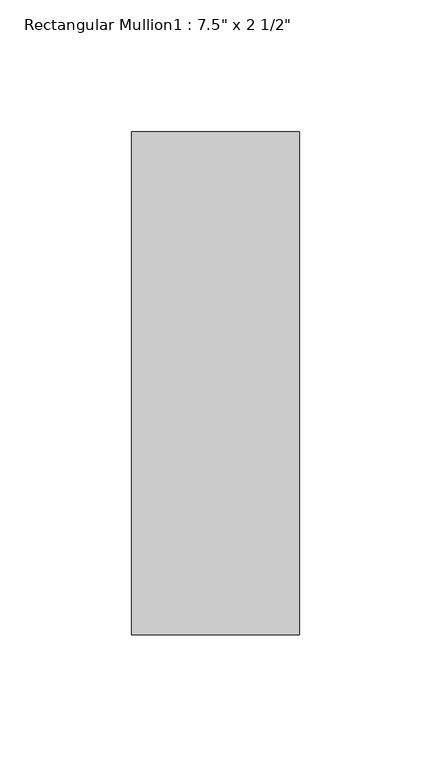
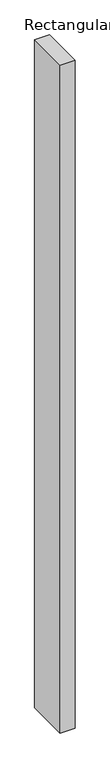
"""IFC4 building model written with IfcOpenShell, lengths in millimetres: member geometry."""

import ifcopenshell
import ifcopenshell.guid

model = None  # the IFC model being written
_history = None  # IfcOwnerHistory: only IFC2X3 demands one
_inside = {}  # id of a spatial element -> (the spatial element, [elements in it])
_under = {}  # id of a project, library or spatial element -> (it, [spatial elements below it])
_declared = {}  # id of a project -> (the project, [libraries it declares])
_typed = {}  # id of a type object -> (the type object, [elements of that type])
_made_of = {}  # id of a material, layer set ... -> (it, [elements and type objects made of it])


def new_model(schema):
    """Start an empty IFC model of exactly this schema.

    Asked for "IFC4X3", IfcOpenShell would pick the latest addendum, in which some entities
    have other attributes; the version numbers below select the first issue.
    IFC2X3 requires an IfcOwnerHistory on every rooted entity: one is made here for all.
    """
    global model, _history
    if schema == "IFC4X3":
        model = ifcopenshell.file(schema_version=(4, 3, 0, 0))
    else:
        model = ifcopenshell.file(schema=schema)
    _inside.clear()
    _under.clear()
    _declared.clear()
    _typed.clear()
    _made_of.clear()
    _history = None
    if model.schema == "IFC2X3":
        org = make("IfcOrganization", Name="unknown")
        user = make(
            "IfcPersonAndOrganization",
            ThePerson=make("IfcPerson", FamilyName="unknown"),
            TheOrganization=org,
        )
        app = make(
            "IfcApplication",
            ApplicationDeveloper=org,
            Version="unknown",
            ApplicationFullName="unknown",
            ApplicationIdentifier="unknown",
        )
        _history = make(
            "IfcOwnerHistory",
            OwningUser=user,
            OwningApplication=app,
            ChangeAction="ADDED",
            CreationDate=0,
        )
    return model


def make(cls, **values):
    """One entity of the class cls with the attributes given. An attribute that is None is left unset."""
    return model.create_entity(
        cls, **{name: value for name, value in values.items() if value is not None}
    )


def rooted(cls, **values):
    """An entity with a GlobalId (a new one), such as an element, a storey or a relation."""
    return make(cls, GlobalId=ifcopenshell.guid.new(), OwnerHistory=_history, **values)


def si_unit(unit_type, name, prefix=None):
    """IfcSIUnit, for example si_unit("LENGTHUNIT", "METRE", prefix="MILLI")."""
    return make("IfcSIUnit", UnitType=unit_type, Prefix=prefix, Name=name)


def assignment(units):
    """IfcUnitAssignment: the units of a project."""
    return None if units is None else make("IfcUnitAssignment", Units=units)


def point(xyz):
    """IfcCartesianPoint."""
    return None if xyz is None else make("IfcCartesianPoint", Coordinates=xyz)


def direction(xyz):
    """IfcDirection."""
    return None if xyz is None else make("IfcDirection", DirectionRatios=xyz)


def frame(location, z_axis=None, x_axis=None):
    """IfcAxis2Placement3D, a coordinate frame: its origin and axes. An axis left out is left unset."""
    return make(
        "IfcAxis2Placement3D",
        Location=point(location),
        Axis=direction(z_axis),
        RefDirection=direction(x_axis),
    )


def origin():
    """The frame at (0, 0, 0) with its axes left unset."""
    return frame((0.0, 0.0, 0.0))


def place(relative_to, where):
    """IfcLocalPlacement: puts the frame where relative to a parent placement (None: the world)."""
    return make(
        "IfcLocalPlacement", PlacementRelTo=relative_to, RelativePlacement=where
    )


def context(
    kind, dimensions, precision=None, world=None, true_north=None, identifier=None
):
    """IfcGeometricRepresentationContext, for example the 3D "Model" context."""
    return make(
        "IfcGeometricRepresentationContext",
        ContextIdentifier=identifier,
        ContextType=kind,
        CoordinateSpaceDimension=dimensions,
        Precision=precision,
        WorldCoordinateSystem=world,
        TrueNorth=true_north,
    )


def project(units=None, contexts=None):
    """IfcProject with its units and contexts."""
    return rooted(
        "IfcProject",
        Name="project",
        RepresentationContexts=contexts,
        UnitsInContext=assignment(units),
    )


def spatial(cls, under=None, at=None, **own):
    """A site, building, storey or space (cls), placed at a placement, below another one or the project."""
    s = rooted(cls, ObjectPlacement=at, **own)
    if under is not None:
        _under.setdefault(under.id(), (under, []))[1].append(s)
    return s


def polyline(points):
    """IfcPolyline through the points."""
    return make("IfcPolyline", Points=[point(p) for p in points])


def outline(outer, holes=None, kind="AREA"):
    """IfcArbitraryClosedProfileDef: a profile drawn as a closed curve; with holes, ...WithVoids."""
    if holes is None:
        return make("IfcArbitraryClosedProfileDef", ProfileType=kind, OuterCurve=outer)
    return make(
        "IfcArbitraryProfileDefWithVoids",
        ProfileType=kind,
        OuterCurve=outer,
        InnerCurves=holes,
    )


def extrude(swept, where, along, depth):
    """IfcExtrudedAreaSolid: the profile swept, set in the frame where, extruded along a direction by depth."""
    return make(
        "IfcExtrudedAreaSolid",
        SweptArea=swept,
        Position=where,
        ExtrudedDirection=direction(along),
        Depth=depth,
    )


def shape(context_of_items, identifier, shape_type, items):
    """IfcShapeRepresentation: the items that make up one representation, for example the "Body"."""
    return make(
        "IfcShapeRepresentation",
        ContextOfItems=context_of_items,
        RepresentationIdentifier=identifier,
        RepresentationType=shape_type,
        Items=items,
    )


def source(mapping_origin, context_of_items, identifier, shape_type, items):
    """IfcRepresentationMap: a shape defined once, which mapped items show again and again."""
    return make(
        "IfcRepresentationMap",
        MappingOrigin=mapping_origin,
        MappedRepresentation=shape(context_of_items, identifier, shape_type, items),
    )


def transform(
    local_origin,
    x_axis=None,
    y_axis=None,
    z_axis=None,
    scale=None,
    scale2=None,
    scale3=None,
    uniform=True,
):
    """IfcCartesianTransformationOperator3D, or its non-uniform kind. x_axis, y_axis, z_axis: its Axis1, 2, 3."""
    if uniform:
        return make(
            "IfcCartesianTransformationOperator3D",
            Axis1=direction(x_axis),
            Axis2=direction(y_axis),
            LocalOrigin=point(local_origin),
            Scale=scale,
            Axis3=direction(z_axis),
        )
    return make(
        "IfcCartesianTransformationOperator3DnonUniform",
        Axis1=direction(x_axis),
        Axis2=direction(y_axis),
        LocalOrigin=point(local_origin),
        Scale=scale,
        Axis3=direction(z_axis),
        Scale2=scale2,
        Scale3=scale3,
    )


def mapped(mapping_source, mapping_target):
    """IfcMappedItem: shows the shape of a source again, moved by a transform."""
    return make(
        "IfcMappedItem", MappingSource=mapping_source, MappingTarget=mapping_target
    )


def made_of(thing, what):
    """Note that an element or type object is made of a material, layer set ...; save() writes the relation."""
    if what is not None:
        _made_of.setdefault(what.id(), (what, []))[1].append(thing)
    return thing


def element(
    cls,
    number,
    at=None,
    inside=None,
    cuts=None,
    type_object=None,
    material=None,
    context=None,
    identifier="Body",
    shape_type=None,
    held_by="IfcProductDefinitionShape",
    body=None,
    shapes=None,
    **own,
):
    """One element of the class cls, such as IfcWall. Its Tag is "e" and its number.

    at: its placement. inside: the storey or other place that contains it. cuts: it is an
    opening in that element (IfcRelVoidsElement). A single representation is given by context,
    identifier, shape_type and body (its items); several are given by shapes. held_by: the class
    of the entity that holds the representations. save() writes the other relations.
    """
    e = rooted(cls, Tag="e%d" % number, ObjectPlacement=at, **own)
    if body is not None:
        shapes = [shape(context, identifier, shape_type, body)]
    if shapes is not None:
        e.Representation = make(held_by, Representations=shapes)
    if inside is not None:
        _inside.setdefault(inside.id(), (inside, []))[1].append(e)
    if cuts is not None:
        rooted(
            "IfcRelVoidsElement", RelatingBuildingElement=cuts, RelatedOpeningElement=e
        )
    if type_object is not None:
        _typed.setdefault(type_object.id(), (type_object, []))[1].append(e)
    return made_of(e, material)


def aggregate(whole, parts):
    """IfcRelAggregates: a whole, such as a stair, and the parts it consists of."""
    return rooted("IfcRelAggregates", RelatingObject=whole, RelatedObjects=parts)


def save(model, path):
    """Write the relations noted so far, then the file.

    IfcRelAggregates (storeys below a building ...), IfcRelContainedInSpatialStructure (elements
    in a storey), IfcRelDefinesByType, IfcRelAssociatesMaterial and IfcRelDeclares: one each for
    every whole, place, type object, material and project.
    """
    for whole, parts in _under.values():
        aggregate(whole, parts)
    for where, things in _inside.values():
        rooted(
            "IfcRelContainedInSpatialStructure",
            RelatedElements=things,
            RelatingStructure=where,
        )
    for kind, things in _typed.values():
        rooted("IfcRelDefinesByType", RelatedObjects=things, RelatingType=kind)
    for what, things in _made_of.values():
        rooted("IfcRelAssociatesMaterial", RelatedObjects=things, RelatingMaterial=what)
    for by, libraries in _declared.values():
        rooted("IfcRelDeclares", RelatingContext=by, RelatedDefinitions=libraries)
    model.write(path)


def member_d0c55450(model_context):
    return source(origin(), model_context, "Body", "SweptSolid", [
        extrude(outline(polyline([(0.0, 165.1), (0.0, -25.4), (-63.5, -25.4), (-63.5, 165.1), (0.0, 165.1)])), frame((0.0, 0.0, -3048.0), z_axis=(0.0, 0.0, 1.0), x_axis=(1.0, 0.0, 0.0)), (0.0, 0.0, 1.0), 3048.0),
    ])


if __name__ == "__main__":
    model = new_model("IFC4")
    model_context = context("Model", 3, world=origin())
    ifc_project = project(units=[si_unit("LENGTHUNIT", "METRE", prefix="MILLI")], contexts=[model_context])
    site = spatial("IfcSite", under=ifc_project)
    building = spatial("IfcBuilding", under=site)
    placement = place(None, origin())
    member_shape = member_d0c55450(model_context)
    element("IfcMember", 1, ObjectType="Rectangular Mullion1 : 7.5\" x 2 1/2\"", at=placement, inside=building, context=model_context, shape_type="MappedRepresentation", body=[
        mapped(member_shape, transform((0.0, 0.0, 0.0), x_axis=(1.0, 0.0, 0.0), y_axis=(0.0, 1.0, 0.0), z_axis=(0.0, 0.0, 1.0))),
    ])
    save(model, "model.ifc")
